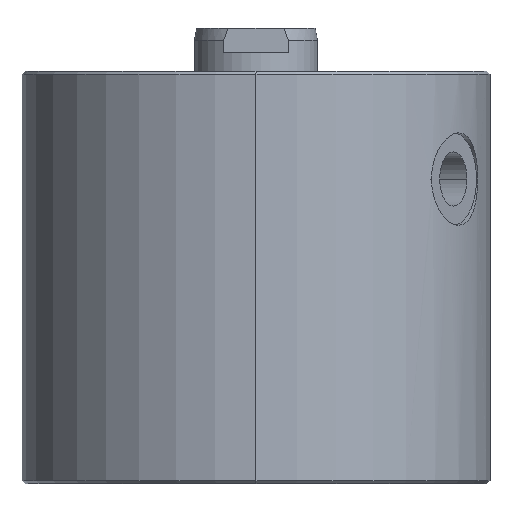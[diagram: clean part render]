
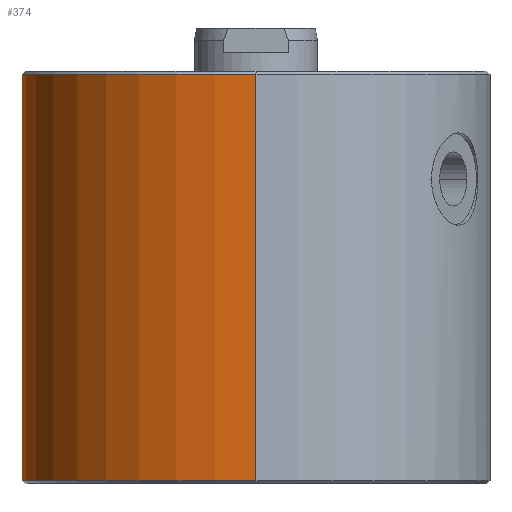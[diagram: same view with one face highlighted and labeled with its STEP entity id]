
A CAD part, left-side view. The second image highlights one B-rep face of the part: STEP entity #374.
In plain terms, the highlighted cylindrical face has radius 38 mm (diameter 76 mm), a partial arc.
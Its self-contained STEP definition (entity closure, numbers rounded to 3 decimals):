
#374 = ADVANCED_FACE ( 'Face1', ( #12759 ), #15788, .T. ) ;
#1771 = LINE ( 'NONE', #15246, #14944 ) ;
#2196 = CARTESIAN_POINT ( 'NONE',  ( 0., 0., 67. ) ) ;
#2662 = EDGE_LOOP ( 'NONE', ( #9238, #8197, #4023, #13142 ) ) ;
#2692 = CARTESIAN_POINT ( 'NONE',  ( 0., 0., 66.5 ) ) ;
#3067 = AXIS2_PLACEMENT_3D ( 'NONE', #5140, #14073, #6412 ) ;
#3584 = CARTESIAN_POINT ( 'NONE',  ( -38., 0., 67. ) ) ;
#3977 = DIRECTION ( 'NONE',  ( 1., 0., 0. ) ) ;
#4023 = ORIENTED_EDGE ( 'NONE', *, *, #12947, .T. ) ;
#4734 = CIRCLE ( 'NONE', #3067, 38. ) ;
#4768 = DIRECTION ( 'NONE',  ( 0., 0., -1. ) ) ;
#4872 = VERTEX_POINT ( 'NONE', #15730 ) ;
#5140 = CARTESIAN_POINT ( 'NONE',  ( 0., 0., 0.5 ) ) ;
#6062 = EDGE_CURVE ( 'NONE', #15227, #4872, #15375, .T. ) ;
#6300 = DIRECTION ( 'NONE',  ( 0., 0., -1. ) ) ;
#6333 = VERTEX_POINT ( 'NONE', #13861 ) ;
#6412 = DIRECTION ( 'NONE',  ( 1., 0., 0. ) ) ;
#8197 = ORIENTED_EDGE ( 'NONE', *, *, #12936, .T. ) ;
#9238 = ORIENTED_EDGE ( 'NONE', *, *, #12627, .T. ) ;
#10028 = DIRECTION ( 'NONE',  ( 0., 0., -1. ) ) ;
#10563 = CIRCLE ( 'NONE', #11126, 38. ) ;
#11126 = AXIS2_PLACEMENT_3D ( 'NONE', #2692, #11659, #3977 ) ;
#11659 = DIRECTION ( 'NONE',  ( 0., 0., -1. ) ) ;
#12028 = CARTESIAN_POINT ( 'NONE',  ( -38., 0., 66.5 ) ) ;
#12434 = DIRECTION ( 'NONE',  ( -1., 0., 0. ) ) ;
#12627 = EDGE_CURVE ( 'NONE', #15227, #6333, #10563, .T. ) ;
#12759 = FACE_OUTER_BOUND ( 'NONE', #2662, .T. ) ;
#12936 = EDGE_CURVE ( 'NONE', #6333, #13912, #1771, .T. ) ;
#12947 = EDGE_CURVE ( 'NONE', #13912, #4872, #4734, .T. ) ;
#13142 = ORIENTED_EDGE ( 'NONE', *, *, #6062, .F. ) ;
#13861 = CARTESIAN_POINT ( 'NONE',  ( 38., 0., 66.5 ) ) ;
#13912 = VERTEX_POINT ( 'NONE', #15495 ) ;
#14073 = DIRECTION ( 'NONE',  ( 0., 0., 1. ) ) ;
#14944 = VECTOR ( 'NONE', #6300, 1000. ) ;
#14976 = VECTOR ( 'NONE', #10028, 1000. ) ;
#15227 = VERTEX_POINT ( 'NONE', #12028 ) ;
#15246 = CARTESIAN_POINT ( 'NONE',  ( 38., 0., 67. ) ) ;
#15375 = LINE ( 'NONE', #3584, #14976 ) ;
#15495 = CARTESIAN_POINT ( 'NONE',  ( 38., 0., 0.5 ) ) ;
#15730 = CARTESIAN_POINT ( 'NONE',  ( -38., 0., 0.5 ) ) ;
#15788 = CYLINDRICAL_SURFACE ( 'NONE', #16336, 38. ) ;
#16336 = AXIS2_PLACEMENT_3D ( 'NONE', #2196, #4768, #12434 ) ;
